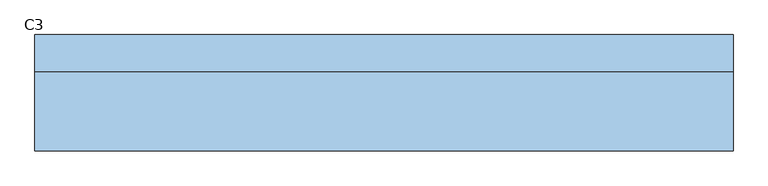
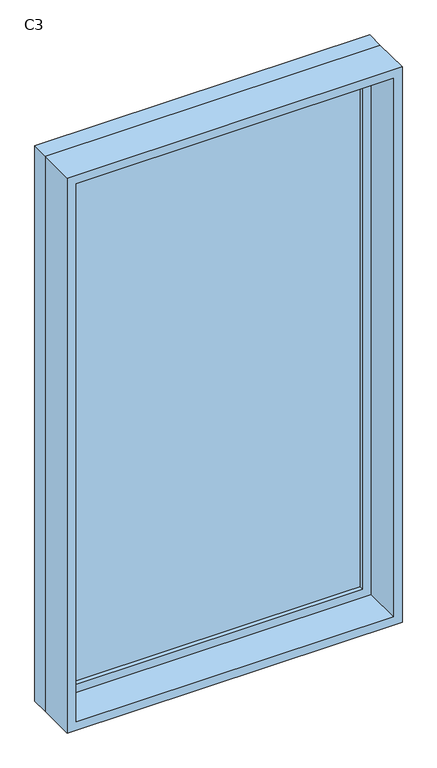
"""IFC4 building model written with IfcOpenShell, lengths in millimetres: window geometry, 固定 : C3."""

import ifcopenshell
import ifcopenshell.guid

model = None  # the IFC model being written
_history = None  # IfcOwnerHistory: only IFC2X3 demands one
_inside = {}  # id of a spatial element -> (the spatial element, [elements in it])
_under = {}  # id of a project, library or spatial element -> (it, [spatial elements below it])
_declared = {}  # id of a project -> (the project, [libraries it declares])
_typed = {}  # id of a type object -> (the type object, [elements of that type])
_made_of = {}  # id of a material, layer set ... -> (it, [elements and type objects made of it])


def new_model(schema):
    """Start an empty IFC model of exactly this schema.

    Asked for "IFC4X3", IfcOpenShell would pick the latest addendum, in which some entities
    have other attributes; the version numbers below select the first issue.
    IFC2X3 requires an IfcOwnerHistory on every rooted entity: one is made here for all.
    """
    global model, _history
    if schema == "IFC4X3":
        model = ifcopenshell.file(schema_version=(4, 3, 0, 0))
    else:
        model = ifcopenshell.file(schema=schema)
    _inside.clear()
    _under.clear()
    _declared.clear()
    _typed.clear()
    _made_of.clear()
    _history = None
    if model.schema == "IFC2X3":
        org = make("IfcOrganization", Name="unknown")
        user = make(
            "IfcPersonAndOrganization",
            ThePerson=make("IfcPerson", FamilyName="unknown"),
            TheOrganization=org,
        )
        app = make(
            "IfcApplication",
            ApplicationDeveloper=org,
            Version="unknown",
            ApplicationFullName="unknown",
            ApplicationIdentifier="unknown",
        )
        _history = make(
            "IfcOwnerHistory",
            OwningUser=user,
            OwningApplication=app,
            ChangeAction="ADDED",
            CreationDate=0,
        )
    return model


def make(cls, **values):
    """One entity of the class cls with the attributes given. An attribute that is None is left unset."""
    return model.create_entity(
        cls, **{name: value for name, value in values.items() if value is not None}
    )


def rooted(cls, **values):
    """An entity with a GlobalId (a new one), such as an element, a storey or a relation."""
    return make(cls, GlobalId=ifcopenshell.guid.new(), OwnerHistory=_history, **values)


def si_unit(unit_type, name, prefix=None):
    """IfcSIUnit, for example si_unit("LENGTHUNIT", "METRE", prefix="MILLI")."""
    return make("IfcSIUnit", UnitType=unit_type, Prefix=prefix, Name=name)


def assignment(units):
    """IfcUnitAssignment: the units of a project."""
    return None if units is None else make("IfcUnitAssignment", Units=units)


def point(xyz):
    """IfcCartesianPoint."""
    return None if xyz is None else make("IfcCartesianPoint", Coordinates=xyz)


def direction(xyz):
    """IfcDirection."""
    return None if xyz is None else make("IfcDirection", DirectionRatios=xyz)


def frame(location, z_axis=None, x_axis=None):
    """IfcAxis2Placement3D, a coordinate frame: its origin and axes. An axis left out is left unset."""
    return make(
        "IfcAxis2Placement3D",
        Location=point(location),
        Axis=direction(z_axis),
        RefDirection=direction(x_axis),
    )


def origin():
    """The frame at (0, 0, 0) with its axes left unset."""
    return frame((0.0, 0.0, 0.0))


def place(relative_to, where):
    """IfcLocalPlacement: puts the frame where relative to a parent placement (None: the world)."""
    return make(
        "IfcLocalPlacement", PlacementRelTo=relative_to, RelativePlacement=where
    )


def context(
    kind, dimensions, precision=None, world=None, true_north=None, identifier=None
):
    """IfcGeometricRepresentationContext, for example the 3D "Model" context."""
    return make(
        "IfcGeometricRepresentationContext",
        ContextIdentifier=identifier,
        ContextType=kind,
        CoordinateSpaceDimension=dimensions,
        Precision=precision,
        WorldCoordinateSystem=world,
        TrueNorth=true_north,
    )


def project(units=None, contexts=None):
    """IfcProject with its units and contexts."""
    return rooted(
        "IfcProject",
        Name="project",
        RepresentationContexts=contexts,
        UnitsInContext=assignment(units),
    )


def spatial(cls, under=None, at=None, **own):
    """A site, building, storey or space (cls), placed at a placement, below another one or the project."""
    s = rooted(cls, ObjectPlacement=at, **own)
    if under is not None:
        _under.setdefault(under.id(), (under, []))[1].append(s)
    return s


def polyline(points):
    """IfcPolyline through the points."""
    return make("IfcPolyline", Points=[point(p) for p in points])


def outline(outer, holes=None, kind="AREA"):
    """IfcArbitraryClosedProfileDef: a profile drawn as a closed curve; with holes, ...WithVoids."""
    if holes is None:
        return make("IfcArbitraryClosedProfileDef", ProfileType=kind, OuterCurve=outer)
    return make(
        "IfcArbitraryProfileDefWithVoids",
        ProfileType=kind,
        OuterCurve=outer,
        InnerCurves=holes,
    )


def extrude(swept, where, along, depth):
    """IfcExtrudedAreaSolid: the profile swept, set in the frame where, extruded along a direction by depth."""
    return make(
        "IfcExtrudedAreaSolid",
        SweptArea=swept,
        Position=where,
        ExtrudedDirection=direction(along),
        Depth=depth,
    )


def shape(context_of_items, identifier, shape_type, items):
    """IfcShapeRepresentation: the items that make up one representation, for example the "Body"."""
    return make(
        "IfcShapeRepresentation",
        ContextOfItems=context_of_items,
        RepresentationIdentifier=identifier,
        RepresentationType=shape_type,
        Items=items,
    )


def source(mapping_origin, context_of_items, identifier, shape_type, items):
    """IfcRepresentationMap: a shape defined once, which mapped items show again and again."""
    return make(
        "IfcRepresentationMap",
        MappingOrigin=mapping_origin,
        MappedRepresentation=shape(context_of_items, identifier, shape_type, items),
    )


def transform(
    local_origin,
    x_axis=None,
    y_axis=None,
    z_axis=None,
    scale=None,
    scale2=None,
    scale3=None,
    uniform=True,
):
    """IfcCartesianTransformationOperator3D, or its non-uniform kind. x_axis, y_axis, z_axis: its Axis1, 2, 3."""
    if uniform:
        return make(
            "IfcCartesianTransformationOperator3D",
            Axis1=direction(x_axis),
            Axis2=direction(y_axis),
            LocalOrigin=point(local_origin),
            Scale=scale,
            Axis3=direction(z_axis),
        )
    return make(
        "IfcCartesianTransformationOperator3DnonUniform",
        Axis1=direction(x_axis),
        Axis2=direction(y_axis),
        LocalOrigin=point(local_origin),
        Scale=scale,
        Axis3=direction(z_axis),
        Scale2=scale2,
        Scale3=scale3,
    )


def mapped(mapping_source, mapping_target):
    """IfcMappedItem: shows the shape of a source again, moved by a transform."""
    return make(
        "IfcMappedItem", MappingSource=mapping_source, MappingTarget=mapping_target
    )


def made_of(thing, what):
    """Note that an element or type object is made of a material, layer set ...; save() writes the relation."""
    if what is not None:
        _made_of.setdefault(what.id(), (what, []))[1].append(thing)
    return thing


def element(
    cls,
    number,
    at=None,
    inside=None,
    cuts=None,
    type_object=None,
    material=None,
    context=None,
    identifier="Body",
    shape_type=None,
    held_by="IfcProductDefinitionShape",
    body=None,
    shapes=None,
    **own,
):
    """One element of the class cls, such as IfcWall. Its Tag is "e" and its number.

    at: its placement. inside: the storey or other place that contains it. cuts: it is an
    opening in that element (IfcRelVoidsElement). A single representation is given by context,
    identifier, shape_type and body (its items); several are given by shapes. held_by: the class
    of the entity that holds the representations. save() writes the other relations.
    """
    e = rooted(cls, Tag="e%d" % number, ObjectPlacement=at, **own)
    if body is not None:
        shapes = [shape(context, identifier, shape_type, body)]
    if shapes is not None:
        e.Representation = make(held_by, Representations=shapes)
    if inside is not None:
        _inside.setdefault(inside.id(), (inside, []))[1].append(e)
    if cuts is not None:
        rooted(
            "IfcRelVoidsElement", RelatingBuildingElement=cuts, RelatedOpeningElement=e
        )
    if type_object is not None:
        _typed.setdefault(type_object.id(), (type_object, []))[1].append(e)
    return made_of(e, material)


def aggregate(whole, parts):
    """IfcRelAggregates: a whole, such as a stair, and the parts it consists of."""
    return rooted("IfcRelAggregates", RelatingObject=whole, RelatedObjects=parts)


def save(model, path):
    """Write the relations noted so far, then the file.

    IfcRelAggregates (storeys below a building ...), IfcRelContainedInSpatialStructure (elements
    in a storey), IfcRelDefinesByType, IfcRelAssociatesMaterial and IfcRelDeclares: one each for
    every whole, place, type object, material and project.
    """
    for whole, parts in _under.values():
        aggregate(whole, parts)
    for where, things in _inside.values():
        rooted(
            "IfcRelContainedInSpatialStructure",
            RelatedElements=things,
            RelatingStructure=where,
        )
    for kind, things in _typed.values():
        rooted("IfcRelDefinesByType", RelatedObjects=things, RelatingType=kind)
    for what, things in _made_of.values():
        rooted("IfcRelAssociatesMaterial", RelatedObjects=things, RelatingMaterial=what)
    for by, libraries in _declared.values():
        rooted("IfcRelDeclares", RelatingContext=by, RelatedDefinitions=libraries)
    model.write(path)


def c3_54e22efd(model_context):
    return source(origin(), model_context, "Body", "SweptSolid", [
        extrude(outline(polyline([(-537.0, 78.0), (537.0, 78.0), (537.0, 66.0), (-537.0, 66.0), (-537.0, 78.0)])), frame((0.0, 0.0, 963.0), z_axis=(0.0, 0.0, 1.0), x_axis=(1.0, 0.0, 0.0)), (0.0, 0.0, 1.0), 1974.0),
        extrude(outline(polyline([(2981.0, -581.0), (919.0, -581.0), (919.0, 581.0), (2981.0, 581.0), (2981.0, -581.0)]), holes=[polyline([(2937.0, -537.0), (2937.0, 537.0), (963.0, 537.0), (963.0, -537.0), (2937.0, -537.0)])]), frame((0.0, 50.0, 0.0), z_axis=(0.0, 1.0, 0.0), x_axis=(0.0, 0.0, 1.0)), (0.0, 0.0, 1.0), 44.0),
        extrude(outline(polyline([(3000.0, -600.0), (900.0, -600.0), (900.0, 600.0), (3000.0, 600.0), (3000.0, -600.0)]), holes=[polyline([(2981.0, -581.0), (2981.0, 581.0), (919.0, 581.0), (919.0, -581.0), (2981.0, -581.0)])]), frame((0.0, 50.0, 0.0), z_axis=(0.0, 1.0, 0.0), x_axis=(0.0, 0.0, 1.0)), (0.0, 0.0, 1.0), 63.0),
        extrude(outline(polyline([(3000.0, -600.0), (900.0, -600.0), (900.0, 600.0), (3000.0, 600.0), (3000.0, -600.0)]), holes=[polyline([(2968.0, -568.0), (2968.0, 568.0), (932.0, 568.0), (932.0, -568.0), (2968.0, -568.0)])]), frame((0.0, -87.0, 0.0), z_axis=(0.0, 1.0, 0.0), x_axis=(0.0, 0.0, 1.0)), (0.0, 0.0, 1.0), 137.0),
    ])


if __name__ == "__main__":
    model = new_model("IFC4")
    model_context = context("Model", 3, world=origin())
    ifc_project = project(units=[si_unit("LENGTHUNIT", "METRE", prefix="MILLI")], contexts=[model_context])
    site = spatial("IfcSite", under=ifc_project)
    building = spatial("IfcBuilding", under=site)
    placement = place(None, origin())
    c3_shape = c3_54e22efd(model_context)
    element("IfcWindow", 1, ObjectType="固定 : C3", at=placement, inside=building, context=model_context, shape_type="MappedRepresentation", body=[
        mapped(c3_shape, transform((0.0, 0.0, 0.0), x_axis=(1.0, 0.0, 0.0), y_axis=(0.0, 1.0, 0.0), z_axis=(0.0, 0.0, 1.0))),
    ])
    save(model, "model.ifc")
